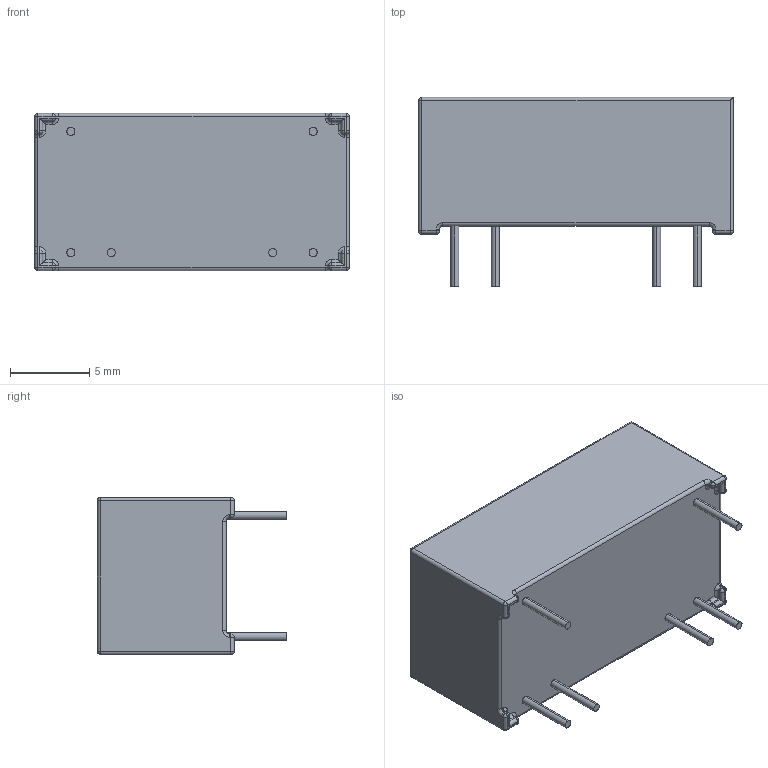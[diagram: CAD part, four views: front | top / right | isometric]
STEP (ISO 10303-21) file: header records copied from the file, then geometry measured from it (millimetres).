
FILE_DESCRIPTION (( 'STEP AP214' ), '1' );
FILE_NAME ('98-1-C.STEP', '2010-11-26T15:18:24', ( ' ' ), ( '' ), 'SwSTEP 2.0', 'SolidWorks 2009', '' );
FILE_SCHEMA (( 'AUTOMOTIVE_DESIGN' ));
Length unit declared in the file: millimetre
Products named in the file (1): 98-1-C
Bounding box: 19.8 x 11.9 x 9.9 mm (x, y, z)
Volume: 1591.7 mm3; surface area: 905.2 mm2
Topology: 1 solids, 1 shells, 917 faces, 2386 edges, 1540 vertices
Faces by surface type: plane 497, bspline 301, cylinder 81, sphere 22, torus 16
Entity records: 62713 total; most frequent: CARTESIAN_POINT 32239, ORIENTED_EDGE 4728, DIRECTION 3144, EDGE_CURVE 2364, VECTOR 1594, LINE 1594, VERTEX_POINT 1540, EDGE_LOOP 1008
